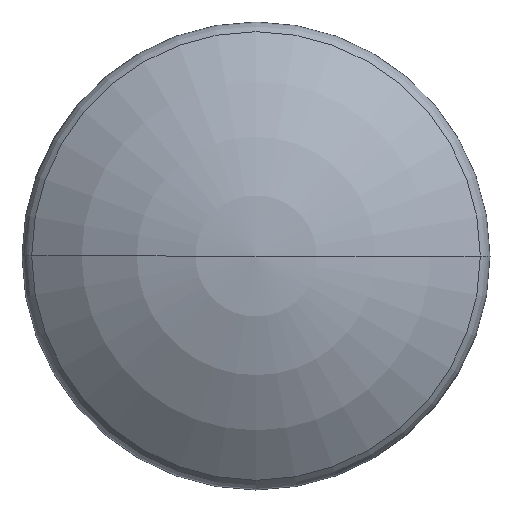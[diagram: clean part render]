
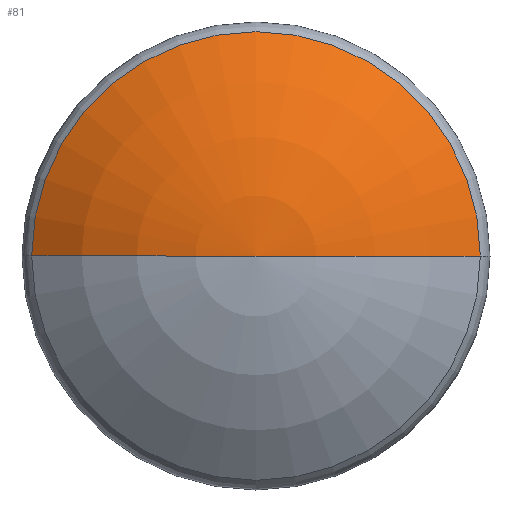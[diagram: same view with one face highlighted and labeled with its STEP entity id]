
A CAD part, front view. The second image highlights one B-rep face of the part: STEP entity #81.
In plain terms, the highlighted toroidal (fillet/blend) face has major radius 0 mm and minor radius 76.2 mm.
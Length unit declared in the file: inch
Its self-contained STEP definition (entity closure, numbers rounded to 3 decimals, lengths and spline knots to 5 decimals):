
#10 = EDGE_LOOP ( 'NONE', ( #247, #192, #135 ) ) ;
#11 = AXIS2_PLACEMENT_3D ( 'NONE', #20, #138, #84 ) ;
#16 = CARTESIAN_POINT ( 'NONE',  ( 0., -0.80762, 0. ) ) ;
#20 = CARTESIAN_POINT ( 'NONE',  ( 0., 1.5, 0. ) ) ;
#21 = EDGE_CURVE ( 'NONE', #191, #291, #142, .T. ) ;
#25 = DIRECTION ( 'NONE',  ( 0., 0., -1. ) ) ;
#28 = CIRCLE ( 'NONE', #357, 1.917 ) ;
#31 = EDGE_CURVE ( 'NONE', #161, #291, #261, .T. ) ;
#74 = CARTESIAN_POINT ( 'NONE',  ( -0.00001, 1.5, 0. ) ) ;
#81 = ADVANCED_FACE ( 'NONE', ( #206 ), #181, .T. ) ;
#84 = DIRECTION ( 'NONE',  ( 1., 0., 0. ) ) ;
#87 = DIRECTION ( 'NONE',  ( 1., 0., 0. ) ) ;
#112 = DIRECTION ( 'NONE',  ( 0., 0., 1. ) ) ;
#135 = ORIENTED_EDGE ( 'NONE', *, *, #31, .F. ) ;
#138 = DIRECTION ( 'NONE',  ( 0., -1., 0. ) ) ;
#142 = CIRCLE ( 'NONE', #159, 3. ) ;
#159 = AXIS2_PLACEMENT_3D ( 'NONE', #74, #112, #347 ) ;
#161 = VERTEX_POINT ( 'NONE', #182 ) ;
#172 = CARTESIAN_POINT ( 'NONE',  ( -1.917, -0.80762, 0. ) ) ;
#181 = TOROIDAL_SURFACE ( 'NONE', #11, 0.00001, 3. ) ;
#182 = CARTESIAN_POINT ( 'NONE',  ( 1.917, -0.80762, 0. ) ) ;
#191 = VERTEX_POINT ( 'NONE', #172 ) ;
#192 = ORIENTED_EDGE ( 'NONE', *, *, #21, .T. ) ;
#198 = CARTESIAN_POINT ( 'NONE',  ( 0.00001, 1.5, 0. ) ) ;
#201 = DIRECTION ( 'NONE',  ( 0., -1., 0. ) ) ;
#206 = FACE_OUTER_BOUND ( 'NONE', #10, .T. ) ;
#208 = EDGE_CURVE ( 'NONE', #161, #191, #28, .T. ) ;
#236 = CARTESIAN_POINT ( 'NONE',  ( 0., -1.5, 0. ) ) ;
#247 = ORIENTED_EDGE ( 'NONE', *, *, #208, .T. ) ;
#261 = CIRCLE ( 'NONE', #356, 3. ) ;
#291 = VERTEX_POINT ( 'NONE', #236 ) ;
#308 = DIRECTION ( 'NONE',  ( -1., 0., 0. ) ) ;
#347 = DIRECTION ( 'NONE',  ( 1., 0., 0. ) ) ;
#356 = AXIS2_PLACEMENT_3D ( 'NONE', #198, #25, #308 ) ;
#357 = AXIS2_PLACEMENT_3D ( 'NONE', #16, #201, #87 ) ;
